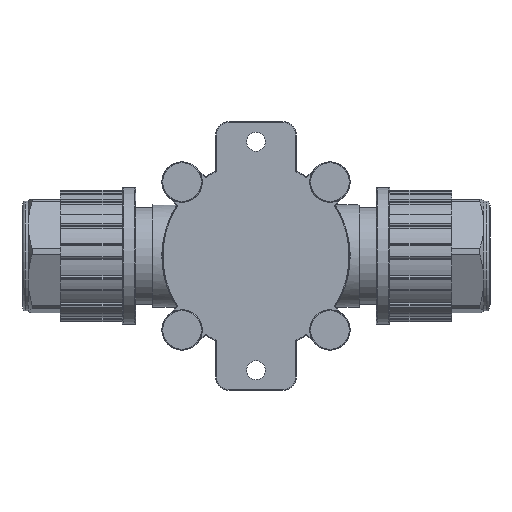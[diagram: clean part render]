
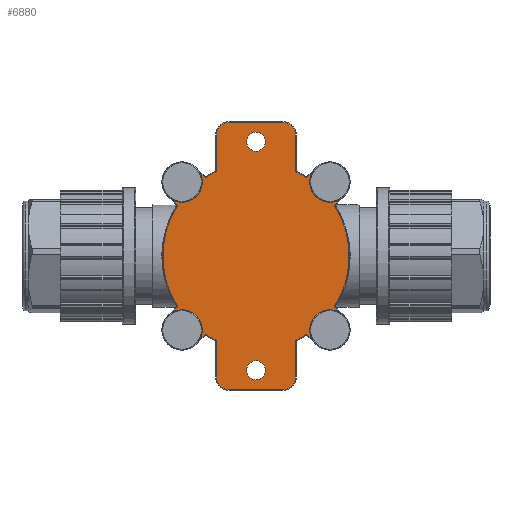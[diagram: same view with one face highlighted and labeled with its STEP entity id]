
A CAD part, front view. The second image highlights one B-rep face of the part: STEP entity #6880.
In plain terms, the highlighted planar face has unit normal (0, -1, 0).
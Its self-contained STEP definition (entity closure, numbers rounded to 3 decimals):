
#2251=LINE('',#38553,#4513);
#2252=LINE('',#38557,#4514);
#2253=LINE('',#38561,#4515);
#2254=LINE('',#38565,#4516);
#2255=LINE('',#38569,#4517);
#2256=LINE('',#38573,#4518);
#2257=LINE('',#38577,#4519);
#2258=LINE('',#38581,#4520);
#2259=LINE('',#38585,#4521);
#2260=LINE('',#38589,#4522);
#2261=LINE('',#38593,#4523);
#2262=LINE('',#38597,#4524);
#2263=LINE('',#38601,#4525);
#2264=LINE('',#38605,#4526);
#4513=VECTOR('',#31576,1.);
#4514=VECTOR('',#31579,1.);
#4515=VECTOR('',#31582,1.);
#4516=VECTOR('',#31585,1.);
#4517=VECTOR('',#31588,1.);
#4518=VECTOR('',#31591,1.);
#4519=VECTOR('',#31594,1.);
#4520=VECTOR('',#31597,1.);
#4521=VECTOR('',#31600,1.);
#4522=VECTOR('',#31603,1.);
#4523=VECTOR('',#31606,1.);
#4524=VECTOR('',#31609,1.);
#4525=VECTOR('',#31612,1.);
#4526=VECTOR('',#31615,1.);
#5914=FACE_BOUND('',#10311,.T.);
#5915=FACE_BOUND('',#10312,.T.);
#5916=FACE_BOUND('',#10313,.T.);
#6880=ADVANCED_FACE('',(#5914,#5915,#5916),#7856,.F.);
#7856=PLANE('',#26297);
#10311=EDGE_LOOP('',(#15272,#15273,#15274,#15275,#15276,#15277,#15278,#15279,
#15280,#15281,#15282,#15283,#15284,#15285,#15286,#15287,#15288,#15289,#15290,
#15291,#15292,#15293,#15294,#15295,#15296,#15297,#15298,#15299));
#10312=EDGE_LOOP('',(#15300));
#10313=EDGE_LOOP('',(#15301));
#15272=ORIENTED_EDGE('',*,*,#22428,.F.);
#15273=ORIENTED_EDGE('',*,*,#22429,.T.);
#15274=ORIENTED_EDGE('',*,*,#22430,.T.);
#15275=ORIENTED_EDGE('',*,*,#22431,.T.);
#15276=ORIENTED_EDGE('',*,*,#22432,.F.);
#15277=ORIENTED_EDGE('',*,*,#22433,.T.);
#15278=ORIENTED_EDGE('',*,*,#22434,.T.);
#15279=ORIENTED_EDGE('',*,*,#22435,.T.);
#15280=ORIENTED_EDGE('',*,*,#22436,.T.);
#15281=ORIENTED_EDGE('',*,*,#22437,.T.);
#15282=ORIENTED_EDGE('',*,*,#22438,.T.);
#15283=ORIENTED_EDGE('',*,*,#22439,.T.);
#15284=ORIENTED_EDGE('',*,*,#22440,.T.);
#15285=ORIENTED_EDGE('',*,*,#22441,.T.);
#15286=ORIENTED_EDGE('',*,*,#22442,.F.);
#15287=ORIENTED_EDGE('',*,*,#22443,.T.);
#15288=ORIENTED_EDGE('',*,*,#22444,.T.);
#15289=ORIENTED_EDGE('',*,*,#22445,.T.);
#15290=ORIENTED_EDGE('',*,*,#22446,.F.);
#15291=ORIENTED_EDGE('',*,*,#22447,.T.);
#15292=ORIENTED_EDGE('',*,*,#22448,.T.);
#15293=ORIENTED_EDGE('',*,*,#22449,.T.);
#15294=ORIENTED_EDGE('',*,*,#22450,.T.);
#15295=ORIENTED_EDGE('',*,*,#22451,.T.);
#15296=ORIENTED_EDGE('',*,*,#22452,.T.);
#15297=ORIENTED_EDGE('',*,*,#22453,.T.);
#15298=ORIENTED_EDGE('',*,*,#22454,.T.);
#15299=ORIENTED_EDGE('',*,*,#22455,.T.);
#15300=ORIENTED_EDGE('',*,*,#22456,.T.);
#15301=ORIENTED_EDGE('',*,*,#22457,.T.);
#19344=VERTEX_POINT('',#38551);
#19345=VERTEX_POINT('',#38552);
#19346=VERTEX_POINT('',#38554);
#19347=VERTEX_POINT('',#38556);
#19348=VERTEX_POINT('',#38558);
#19349=VERTEX_POINT('',#38560);
#19350=VERTEX_POINT('',#38562);
#19351=VERTEX_POINT('',#38564);
#19352=VERTEX_POINT('',#38566);
#19353=VERTEX_POINT('',#38568);
#19354=VERTEX_POINT('',#38570);
#19355=VERTEX_POINT('',#38572);
#19356=VERTEX_POINT('',#38574);
#19357=VERTEX_POINT('',#38576);
#19358=VERTEX_POINT('',#38578);
#19359=VERTEX_POINT('',#38580);
#19360=VERTEX_POINT('',#38582);
#19361=VERTEX_POINT('',#38584);
#19362=VERTEX_POINT('',#38586);
#19363=VERTEX_POINT('',#38588);
#19364=VERTEX_POINT('',#38590);
#19365=VERTEX_POINT('',#38592);
#19366=VERTEX_POINT('',#38594);
#19367=VERTEX_POINT('',#38596);
#19368=VERTEX_POINT('',#38598);
#19369=VERTEX_POINT('',#38600);
#19370=VERTEX_POINT('',#38602);
#19371=VERTEX_POINT('',#38604);
#19372=VERTEX_POINT('',#38607);
#19373=VERTEX_POINT('',#38609);
#22428=EDGE_CURVE('',#19344,#19345,#24438,.T.);
#22429=EDGE_CURVE('',#19344,#19346,#2251,.T.);
#22430=EDGE_CURVE('',#19346,#19347,#24439,.T.);
#22431=EDGE_CURVE('',#19347,#19348,#2252,.T.);
#22432=EDGE_CURVE('',#19349,#19348,#24440,.T.);
#22433=EDGE_CURVE('',#19349,#19350,#2253,.T.);
#22434=EDGE_CURVE('',#19350,#19351,#24441,.T.);
#22435=EDGE_CURVE('',#19351,#19352,#2254,.T.);
#22436=EDGE_CURVE('',#19352,#19353,#24442,.T.);
#22437=EDGE_CURVE('',#19353,#19354,#2255,.T.);
#22438=EDGE_CURVE('',#19354,#19355,#24443,.T.);
#22439=EDGE_CURVE('',#19355,#19356,#2256,.T.);
#22440=EDGE_CURVE('',#19356,#19357,#24444,.T.);
#22441=EDGE_CURVE('',#19357,#19358,#2257,.T.);
#22442=EDGE_CURVE('',#19359,#19358,#24445,.T.);
#22443=EDGE_CURVE('',#19359,#19360,#2258,.T.);
#22444=EDGE_CURVE('',#19360,#19361,#24446,.T.);
#22445=EDGE_CURVE('',#19361,#19362,#2259,.T.);
#22446=EDGE_CURVE('',#19363,#19362,#24447,.T.);
#22447=EDGE_CURVE('',#19363,#19364,#2260,.T.);
#22448=EDGE_CURVE('',#19364,#19365,#24448,.T.);
#22449=EDGE_CURVE('',#19365,#19366,#2261,.T.);
#22450=EDGE_CURVE('',#19366,#19367,#24449,.T.);
#22451=EDGE_CURVE('',#19367,#19368,#2262,.T.);
#22452=EDGE_CURVE('',#19368,#19369,#24450,.T.);
#22453=EDGE_CURVE('',#19369,#19370,#2263,.T.);
#22454=EDGE_CURVE('',#19370,#19371,#24451,.T.);
#22455=EDGE_CURVE('',#19371,#19345,#2264,.T.);
#22456=EDGE_CURVE('',#19372,#19372,#24452,.T.);
#22457=EDGE_CURVE('',#19373,#19373,#24453,.T.);
#24438=CIRCLE('',#26281,7.5);
#24439=CIRCLE('',#26282,34.7);
#24440=CIRCLE('',#26283,7.5);
#24441=CIRCLE('',#26284,34.7);
#24442=CIRCLE('',#26285,4.7);
#24443=CIRCLE('',#26286,4.7);
#24444=CIRCLE('',#26287,34.7);
#24445=CIRCLE('',#26288,7.5);
#24446=CIRCLE('',#26289,34.7);
#24447=CIRCLE('',#26290,7.5);
#24448=CIRCLE('',#26291,34.7);
#24449=CIRCLE('',#26292,4.7);
#24450=CIRCLE('',#26293,4.7);
#24451=CIRCLE('',#26294,34.7);
#24452=CIRCLE('',#26295,3.5);
#24453=CIRCLE('',#26296,3.5);
#26281=AXIS2_PLACEMENT_3D('',#38550,#31574,#31575);
#26282=AXIS2_PLACEMENT_3D('',#38555,#31577,#31578);
#26283=AXIS2_PLACEMENT_3D('',#38559,#31580,#31581);
#26284=AXIS2_PLACEMENT_3D('',#38563,#31583,#31584);
#26285=AXIS2_PLACEMENT_3D('',#38567,#31586,#31587);
#26286=AXIS2_PLACEMENT_3D('',#38571,#31589,#31590);
#26287=AXIS2_PLACEMENT_3D('',#38575,#31592,#31593);
#26288=AXIS2_PLACEMENT_3D('',#38579,#31595,#31596);
#26289=AXIS2_PLACEMENT_3D('',#38583,#31598,#31599);
#26290=AXIS2_PLACEMENT_3D('',#38587,#31601,#31602);
#26291=AXIS2_PLACEMENT_3D('',#38591,#31604,#31605);
#26292=AXIS2_PLACEMENT_3D('',#38595,#31607,#31608);
#26293=AXIS2_PLACEMENT_3D('',#38599,#31610,#31611);
#26294=AXIS2_PLACEMENT_3D('',#38603,#31613,#31614);
#26295=AXIS2_PLACEMENT_3D('',#38606,#31616,#31617);
#26296=AXIS2_PLACEMENT_3D('',#38608,#31618,#31619);
#26297=AXIS2_PLACEMENT_3D('',#38610,#31620,#31621);
#31574=DIRECTION('',(0.,-1.,0.));
#31575=DIRECTION('',(0.,0.,-1.));
#31576=DIRECTION('',(0.707,0.,-0.707));
#31577=DIRECTION('',(0.,-1.,0.));
#31578=DIRECTION('',(0.,0.,1.));
#31579=DIRECTION('',(-0.707,0.,-0.707));
#31580=DIRECTION('',(0.,-1.,0.));
#31581=DIRECTION('',(0.,0.,-1.));
#31582=DIRECTION('',(0.707,0.,0.707));
#31583=DIRECTION('',(0.,-1.,0.));
#31584=DIRECTION('',(0.,0.,1.));
#31585=DIRECTION('',(0.,0.,-1.));
#31586=DIRECTION('',(0.,-1.,0.));
#31587=DIRECTION('',(0.,0.,1.));
#31588=DIRECTION('',(1.,0.,0.));
#31589=DIRECTION('',(0.,-1.,0.));
#31590=DIRECTION('',(0.,0.,1.));
#31591=DIRECTION('',(0.,0.,1.));
#31592=DIRECTION('',(0.,-1.,0.));
#31593=DIRECTION('',(0.,0.,1.));
#31594=DIRECTION('',(0.707,0.,-0.707));
#31595=DIRECTION('',(0.,-1.,0.));
#31596=DIRECTION('',(0.,0.,-1.));
#31597=DIRECTION('',(-0.707,0.,0.707));
#31598=DIRECTION('',(0.,-1.,0.));
#31599=DIRECTION('',(0.,0.,1.));
#31600=DIRECTION('',(0.707,0.,0.707));
#31601=DIRECTION('',(0.,-1.,0.));
#31602=DIRECTION('',(0.,0.,-1.));
#31603=DIRECTION('',(-0.707,0.,-0.707));
#31604=DIRECTION('',(0.,-1.,0.));
#31605=DIRECTION('',(0.,0.,1.));
#31606=DIRECTION('',(0.,0.,1.));
#31607=DIRECTION('',(0.,-1.,0.));
#31608=DIRECTION('',(0.,0.,1.));
#31609=DIRECTION('',(-1.,0.,0.));
#31610=DIRECTION('',(0.,-1.,0.));
#31611=DIRECTION('',(0.,0.,1.));
#31612=DIRECTION('',(0.,0.,-1.));
#31613=DIRECTION('',(0.,-1.,0.));
#31614=DIRECTION('',(0.,0.,1.));
#31615=DIRECTION('',(-0.707,0.,0.707));
#31616=DIRECTION('',(0.,1.,0.));
#31617=DIRECTION('',(0.,0.,1.));
#31618=DIRECTION('',(0.,1.,0.));
#31619=DIRECTION('',(0.,0.,1.));
#31620=DIRECTION('',(0.,1.,0.));
#31621=DIRECTION('',(0.,0.,-1.));
#38550=CARTESIAN_POINT('',(-27.5,0.,27.5));
#38551=CARTESIAN_POINT('',(-31.106,0.,20.924));
#38552=CARTESIAN_POINT('',(-20.924,0.,31.106));
#38553=CARTESIAN_POINT('',(-29.094,0.,18.911));
#38554=CARTESIAN_POINT('',(-29.094,0.,18.911));
#38555=CARTESIAN_POINT('',(0.,0.,0.));
#38556=CARTESIAN_POINT('',(-29.094,0.,-18.911));
#38557=CARTESIAN_POINT('',(-31.106,0.,-20.924));
#38558=CARTESIAN_POINT('',(-31.106,0.,-20.924));
#38559=CARTESIAN_POINT('',(-27.5,0.,-27.5));
#38560=CARTESIAN_POINT('',(-20.924,0.,-31.106));
#38561=CARTESIAN_POINT('',(-18.911,0.,-29.094));
#38562=CARTESIAN_POINT('',(-18.911,0.,-29.094));
#38563=CARTESIAN_POINT('',(0.,0.,0.));
#38564=CARTESIAN_POINT('',(-14.7,0.,-31.432));
#38565=CARTESIAN_POINT('',(-14.7,0.,-45.));
#38566=CARTESIAN_POINT('',(-14.7,0.,-45.));
#38567=CARTESIAN_POINT('',(-10.,0.,-45.));
#38568=CARTESIAN_POINT('',(-10.,0.,-49.7));
#38569=CARTESIAN_POINT('',(10.,0.,-49.7));
#38570=CARTESIAN_POINT('',(10.,0.,-49.7));
#38571=CARTESIAN_POINT('',(10.,0.,-45.));
#38572=CARTESIAN_POINT('',(14.7,0.,-45.));
#38573=CARTESIAN_POINT('',(14.7,0.,-31.432));
#38574=CARTESIAN_POINT('',(14.7,0.,-31.432));
#38575=CARTESIAN_POINT('',(0.,0.,0.));
#38576=CARTESIAN_POINT('',(18.911,0.,-29.094));
#38577=CARTESIAN_POINT('',(20.924,0.,-31.106));
#38578=CARTESIAN_POINT('',(20.924,0.,-31.106));
#38579=CARTESIAN_POINT('',(27.5,0.,-27.5));
#38580=CARTESIAN_POINT('',(31.106,0.,-20.924));
#38581=CARTESIAN_POINT('',(29.094,0.,-18.911));
#38582=CARTESIAN_POINT('',(29.094,0.,-18.911));
#38583=CARTESIAN_POINT('',(0.,0.,0.));
#38584=CARTESIAN_POINT('',(29.094,0.,18.911));
#38585=CARTESIAN_POINT('',(31.106,0.,20.924));
#38586=CARTESIAN_POINT('',(31.106,0.,20.924));
#38587=CARTESIAN_POINT('',(27.5,0.,27.5));
#38588=CARTESIAN_POINT('',(20.924,0.,31.106));
#38589=CARTESIAN_POINT('',(18.911,0.,29.094));
#38590=CARTESIAN_POINT('',(18.911,0.,29.094));
#38591=CARTESIAN_POINT('',(0.,0.,0.));
#38592=CARTESIAN_POINT('',(14.7,0.,31.432));
#38593=CARTESIAN_POINT('',(14.7,0.,45.));
#38594=CARTESIAN_POINT('',(14.7,0.,45.));
#38595=CARTESIAN_POINT('',(10.,0.,45.));
#38596=CARTESIAN_POINT('',(10.,0.,49.7));
#38597=CARTESIAN_POINT('',(-10.,0.,49.7));
#38598=CARTESIAN_POINT('',(-10.,0.,49.7));
#38599=CARTESIAN_POINT('',(-10.,0.,45.));
#38600=CARTESIAN_POINT('',(-14.7,0.,45.));
#38601=CARTESIAN_POINT('',(-14.7,0.,31.432));
#38602=CARTESIAN_POINT('',(-14.7,0.,31.432));
#38603=CARTESIAN_POINT('',(0.,0.,0.));
#38604=CARTESIAN_POINT('',(-18.911,0.,29.094));
#38605=CARTESIAN_POINT('',(-20.924,0.,31.106));
#38606=CARTESIAN_POINT('',(0.,0.,42.5));
#38607=CARTESIAN_POINT('',(0.,0.,46.));
#38608=CARTESIAN_POINT('',(0.,0.,-42.5));
#38609=CARTESIAN_POINT('',(0.,0.,-39.));
#38610=CARTESIAN_POINT('',(0.,0.,0.));
